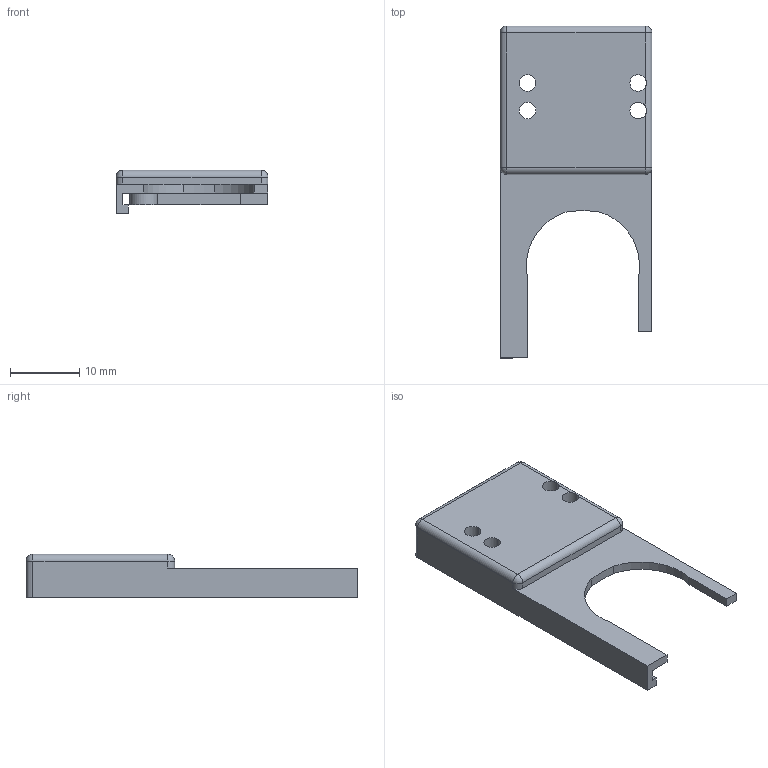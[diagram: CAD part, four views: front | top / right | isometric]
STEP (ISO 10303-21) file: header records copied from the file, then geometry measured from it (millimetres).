
FILE_DESCRIPTION (( 'STEP AP214' ), '1' );
FILE_NAME ('thumb_connect_with_line.STEP', '2026-09-17T10:00:02', ( '' ), ( '' ), 'SwSTEP 2.0', 'SolidWorks 2024', '' );
FILE_SCHEMA (( 'AUTOMOTIVE_DESIGN' ));
Length unit declared in the file: millimetre
Products named in the file (1): thumb_connect_with_line
Bounding box: 22 x 48.05 x 6.3 mm (x, y, z)
Volume: 1600.7 mm3; surface area: 2578.8 mm2
Topology: 1 solids, 1 shells, 53 faces, 149 edges, 92 vertices
Faces by surface type: plane 27, cylinder 22, sphere 4
Entity records: 1722 total; most frequent: CARTESIAN_POINT 311, DIRECTION 293, ORIENTED_EDGE 290, EDGE_CURVE 145, AXIS2_PLACEMENT_3D 98, LINE 97, VECTOR 97, VERTEX_POINT 92
